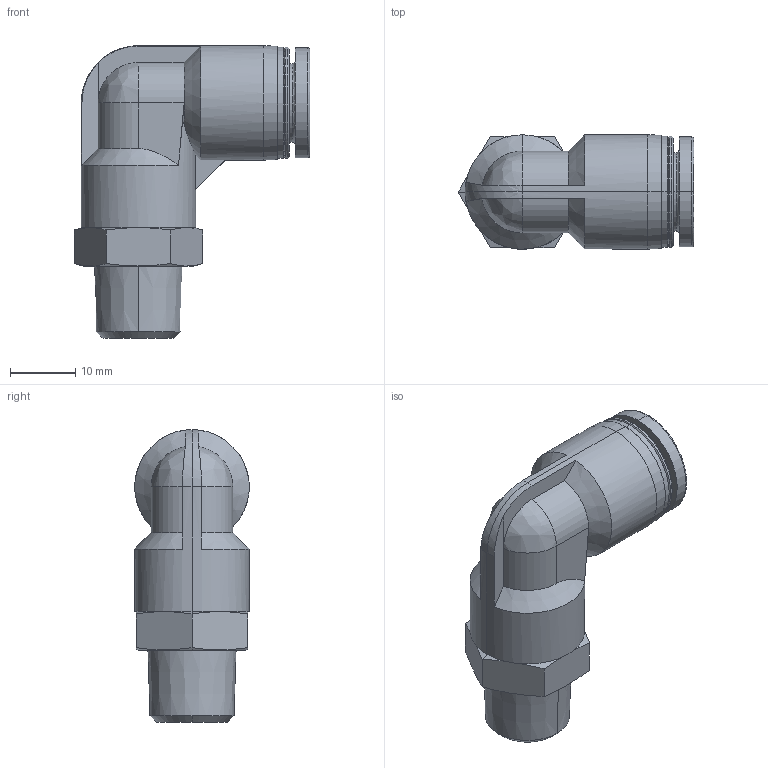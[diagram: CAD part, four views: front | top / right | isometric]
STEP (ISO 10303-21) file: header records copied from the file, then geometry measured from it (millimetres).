
FILE_DESCRIPTION (( 'STEP AP214' ), '1' );
FILE_NAME ('KQ2L10-02AS.STEP', '2023-03-06T09:49:26', ( 'Windows User' ), ( 'P R C' ), 'SwSTEP 2.0', 'SolidWorks 2019', '' );
FILE_SCHEMA (( 'AUTOMOTIVE_DESIGN' ));
Length unit declared in the file: millimetre
Products named in the file (1): KQ2L10-02AS
Bounding box: 36.02 x 17.5 x 44.75 mm (x, y, z)
Volume: 10329.3 mm3; surface area: 4543.7 mm2
Topology: 1 solids, 1 shells, 76 faces, 179 edges, 109 vertices
Faces by surface type: plane 25, cone 23, cylinder 20, bspline 8
Entity records: 2763 total; most frequent: CARTESIAN_POINT 1057, ORIENTED_EDGE 354, DIRECTION 347, EDGE_CURVE 177, AXIS2_PLACEMENT_3D 143, VERTEX_POINT 109, EDGE_LOOP 82, ADVANCED_FACE 76
